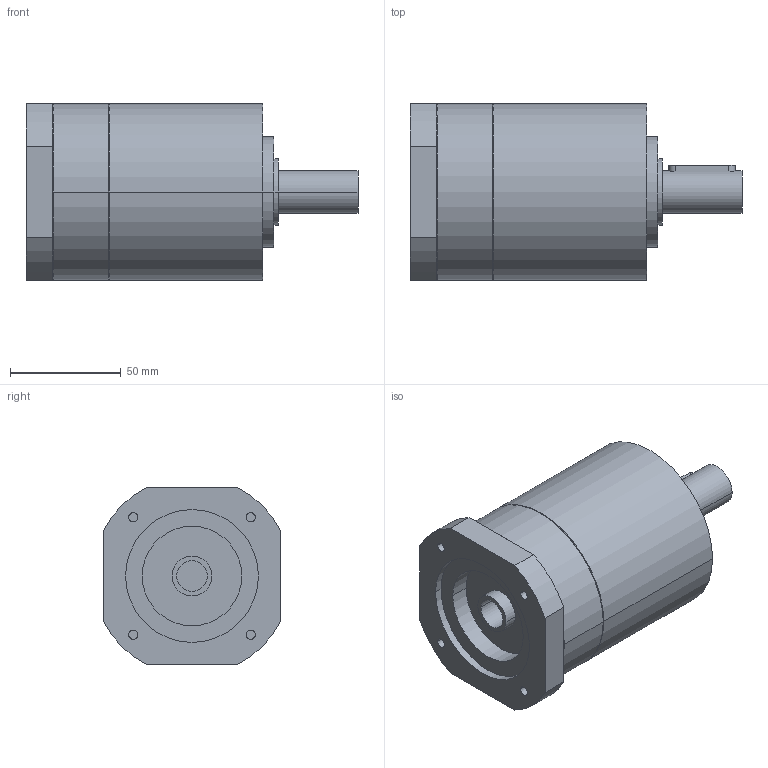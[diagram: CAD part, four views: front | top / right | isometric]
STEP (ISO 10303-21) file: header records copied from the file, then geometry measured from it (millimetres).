
FILE_DESCRIPTION(('CoCreate Modeling STEP Export'),'2;1');
FILE_NAME('GPR100_ig-3-4-5-6_19_B14_14_P23.stp','2014-08-26T10:07:22',(''),(''),'CoCreate Modeling STEP processor for AP214 (Solid Model)','CoCreate Modeling 16.00C 25-Feb-2009 (C) Parametric Technology GmbH','');
FILE_SCHEMA(('AUTOMOTIVE_DESIGN { 1 0 10303 214 1 1 1 1 }'));
Length unit declared in the file: millimetre
Products named in the file (2): GPR100_ig-3-4-5-6_19_B14_14_P23
Assembly tree (1 placements, depth 2):
  GPR100_ig-3-4-5-6_19_B14_14_P23
    GPR100_ig-3-4-5-6_19_B14_14_P23
Bounding box: 150 x 80 x 80 mm (x, y, z)
Volume: 539992.7 mm3; surface area: 47963.5 mm2
Topology: 1 solids, 1 shells, 74 faces, 187 edges, 131 vertices
Faces by surface type: cylinder 42, plane 26, cone 6
Entity records: 1943 total; most frequent: ORIENTED_EDGE 370, CARTESIAN_POINT 360, DIRECTION 264, EDGE_CURVE 185, VERTEX_POINT 131, AXIS2_PLACEMENT_3D 99, EDGE_LOOP 92, FACE_OUTER_BOUND 74
